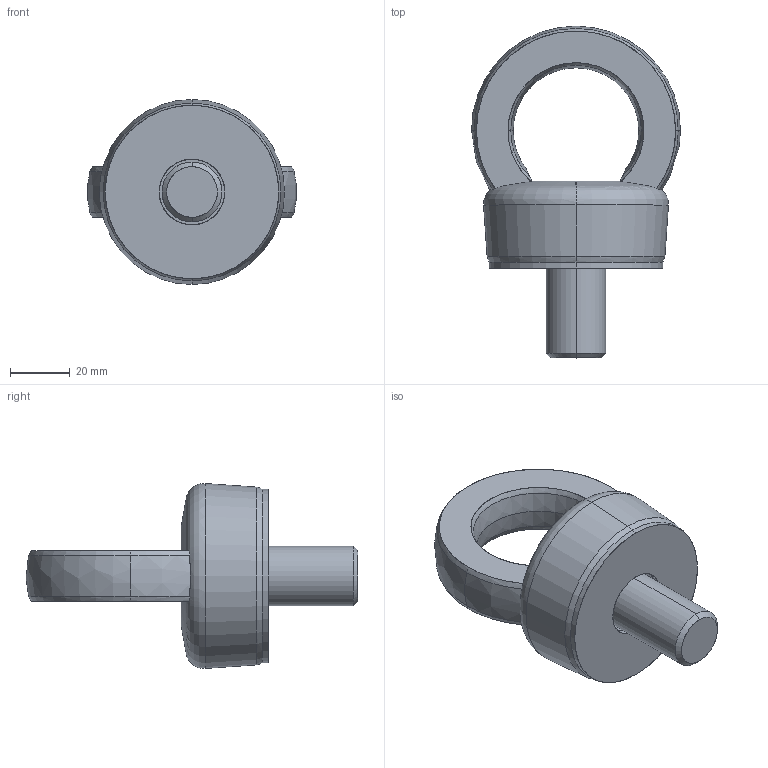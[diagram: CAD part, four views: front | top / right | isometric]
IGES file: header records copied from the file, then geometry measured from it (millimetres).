
Start section: START RECORD GO HERE.
Global section: file name: C817X20.igs; native system: DASSAULT SYSTEMES CATIA V5 R20 - www.3ds.com; preprocessor: CATIA Version 5 Release 20 ; author: r.borello; organization: CFTORINO; date: 20190701.091235; units: millimetre
Bounding box: 69.81 x 110.99 x 61.83 mm (x, y, z)
Surface area: 24034.1 mm2 (no closed solid volume)
Topology: 0 solids, 0 shells, 62 faces, 290 edges, 290 vertices
Faces by surface type: revolution 47, extrusion 15
